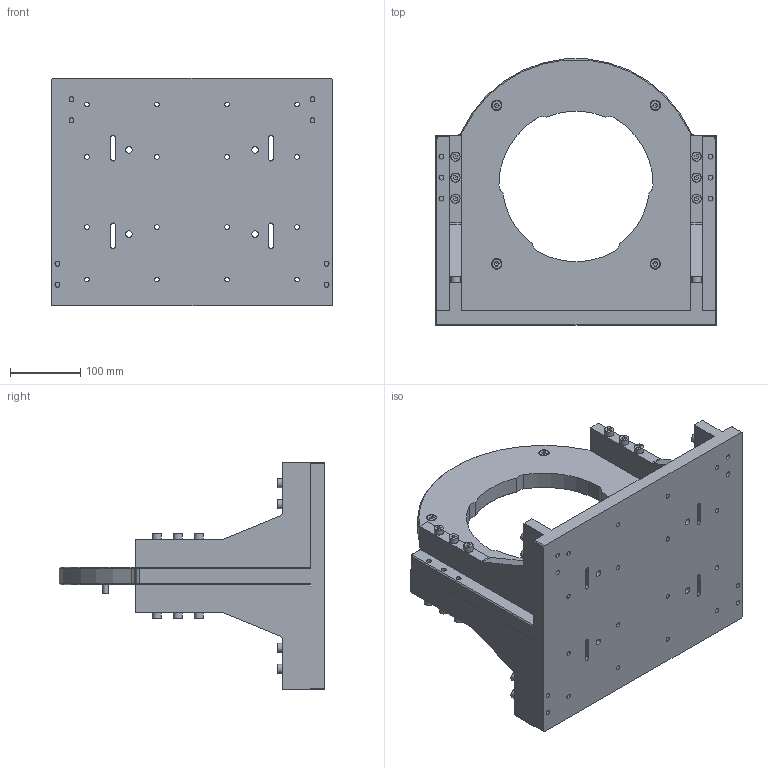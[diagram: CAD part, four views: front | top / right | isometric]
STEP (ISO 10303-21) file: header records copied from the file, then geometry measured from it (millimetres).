
FILE_DESCRIPTION (( 'STEP AP203' ), '1' );
FILE_NAME ('3d_mtl-ch310_a001.STEP', '2017-05-23T04:37:41', ( '' ), ( '' ), 'SwSTEP 2.0', 'SolidWorks 2014', '' );
FILE_SCHEMA (( 'CONFIG_CONTROL_DESIGN' ));
Length unit declared in the file: millimetre
Products named in the file (1): 3d_mtl-ch310_a001
Bounding box: 400 x 379.31 x 325 mm (x, y, z)
Volume: 5821966.8 mm3; surface area: 703028.9 mm2
Topology: 1 solids, 27 shells, 665 faces, 1615 edges, 1043 vertices
Faces by surface type: plane 457, cylinder 156, cone 52
Full cylindrical faces by diameter (mm): 3 x3, 6.6 x16, 7 x20, 8 x24, 9 x28, 13 x24, 15 x4
Entity records: 17582 total; most frequent: DIRECTION 3123, CARTESIAN_POINT 2916, ORIENTED_EDGE 2636, EDGE_CURVE 1318, AXIS2_PLACEMENT_3D 1147, EDGE_LOOP 964, VERTEX_POINT 904, LINE 829
